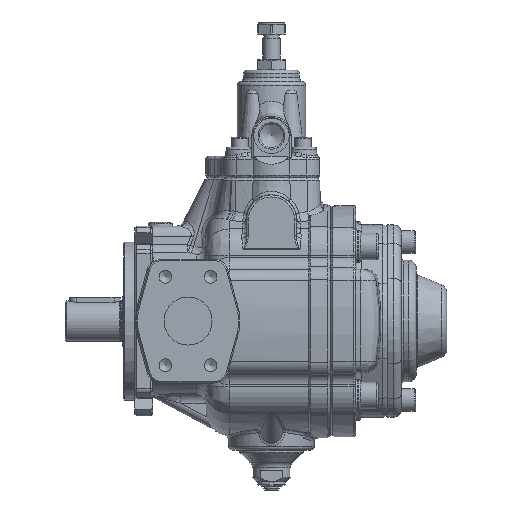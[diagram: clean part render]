
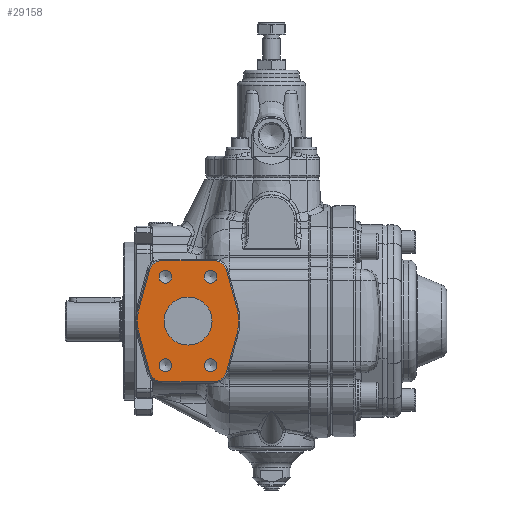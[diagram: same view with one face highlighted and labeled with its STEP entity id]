
A CAD part, left-side view. The second image highlights one B-rep face of the part: STEP entity #29158.
In plain terms, the highlighted planar face has unit normal (-1, 0, 0).
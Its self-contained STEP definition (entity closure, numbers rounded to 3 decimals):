
#1941=FACE_BOUND('',#6414,.T.);
#1942=FACE_BOUND('',#6415,.T.);
#1943=FACE_BOUND('',#6416,.T.);
#1944=FACE_BOUND('',#6417,.T.);
#1945=FACE_BOUND('',#6418,.T.);
#2497=CIRCLE('',#31368,11.);
#2499=CIRCLE('',#31372,40.);
#2502=CIRCLE('',#31377,11.);
#2504=CIRCLE('',#31381,11.);
#2506=CIRCLE('',#31385,40.);
#2508=CIRCLE('',#31389,11.);
#2513=CIRCLE('',#31404,19.);
#2514=CIRCLE('',#31405,5.053);
#2515=CIRCLE('',#31406,5.053);
#2516=CIRCLE('',#31407,5.053);
#2517=CIRCLE('',#31408,5.053);
#2518=CIRCLE('',#31409,5.053);
#2519=CIRCLE('',#31410,5.053);
#2520=CIRCLE('',#31411,5.053);
#2521=CIRCLE('',#31412,5.053);
#4637=FACE_OUTER_BOUND('',#6413,.T.);
#6413=EDGE_LOOP('',(#20047,#20048,#20049,#20050,#20051,#20052,#20053,#20054,
#20055,#20056,#20057,#20058));
#6414=EDGE_LOOP('',(#20059));
#6415=EDGE_LOOP('',(#20060,#20061));
#6416=EDGE_LOOP('',(#20062,#20063));
#6417=EDGE_LOOP('',(#20064,#20065));
#6418=EDGE_LOOP('',(#20066,#20067));
#8185=LINE('',#46070,#9667);
#8190=LINE('',#46084,#9672);
#8194=LINE('',#46098,#9676);
#8198=LINE('',#46110,#9680);
#8202=LINE('',#46122,#9684);
#8206=LINE('',#46134,#9688);
#9667=VECTOR('',#35819,10.);
#9672=VECTOR('',#35832,10.);
#9676=VECTOR('',#35846,10.);
#9680=VECTOR('',#35858,10.);
#9684=VECTOR('',#35870,10.);
#9688=VECTOR('',#35882,10.);
#11523=VERTEX_POINT('',#46067);
#11524=VERTEX_POINT('',#46069);
#11527=VERTEX_POINT('',#46076);
#11529=VERTEX_POINT('',#46082);
#11531=VERTEX_POINT('',#46088);
#11534=VERTEX_POINT('',#46096);
#11536=VERTEX_POINT('',#46102);
#11538=VERTEX_POINT('',#46108);
#11540=VERTEX_POINT('',#46114);
#11542=VERTEX_POINT('',#46120);
#11544=VERTEX_POINT('',#46126);
#11546=VERTEX_POINT('',#46132);
#11586=VERTEX_POINT('',#46340);
#11587=VERTEX_POINT('',#46342);
#11588=VERTEX_POINT('',#46343);
#11589=VERTEX_POINT('',#46346);
#11590=VERTEX_POINT('',#46347);
#11591=VERTEX_POINT('',#46350);
#11592=VERTEX_POINT('',#46351);
#11593=VERTEX_POINT('',#46354);
#11594=VERTEX_POINT('',#46355);
#14592=EDGE_CURVE('',#11523,#11524,#8185,.T.);
#14596=EDGE_CURVE('',#11527,#11523,#2497,.T.);
#14599=EDGE_CURVE('',#11529,#11527,#8190,.T.);
#14602=EDGE_CURVE('',#11531,#11529,#2499,.T.);
#14606=EDGE_CURVE('',#11534,#11531,#8194,.T.);
#14609=EDGE_CURVE('',#11536,#11534,#2502,.T.);
#14612=EDGE_CURVE('',#11538,#11536,#8198,.T.);
#14615=EDGE_CURVE('',#11540,#11538,#2504,.T.);
#14618=EDGE_CURVE('',#11542,#11540,#8202,.T.);
#14621=EDGE_CURVE('',#11544,#11542,#2506,.T.);
#14624=EDGE_CURVE('',#11546,#11544,#8206,.T.);
#14626=EDGE_CURVE('',#11524,#11546,#2508,.T.);
#14674=EDGE_CURVE('',#11586,#11586,#2513,.T.);
#14675=EDGE_CURVE('',#11587,#11588,#2514,.T.);
#14676=EDGE_CURVE('',#11588,#11587,#2515,.T.);
#14677=EDGE_CURVE('',#11589,#11590,#2516,.T.);
#14678=EDGE_CURVE('',#11590,#11589,#2517,.T.);
#14679=EDGE_CURVE('',#11591,#11592,#2518,.T.);
#14680=EDGE_CURVE('',#11592,#11591,#2519,.T.);
#14681=EDGE_CURVE('',#11593,#11594,#2520,.T.);
#14682=EDGE_CURVE('',#11594,#11593,#2521,.T.);
#20047=ORIENTED_EDGE('',*,*,#14592,.F.);
#20048=ORIENTED_EDGE('',*,*,#14596,.F.);
#20049=ORIENTED_EDGE('',*,*,#14599,.F.);
#20050=ORIENTED_EDGE('',*,*,#14602,.F.);
#20051=ORIENTED_EDGE('',*,*,#14606,.F.);
#20052=ORIENTED_EDGE('',*,*,#14609,.F.);
#20053=ORIENTED_EDGE('',*,*,#14612,.F.);
#20054=ORIENTED_EDGE('',*,*,#14615,.F.);
#20055=ORIENTED_EDGE('',*,*,#14618,.F.);
#20056=ORIENTED_EDGE('',*,*,#14621,.F.);
#20057=ORIENTED_EDGE('',*,*,#14624,.F.);
#20058=ORIENTED_EDGE('',*,*,#14626,.F.);
#20059=ORIENTED_EDGE('',*,*,#14674,.T.);
#20060=ORIENTED_EDGE('',*,*,#14675,.T.);
#20061=ORIENTED_EDGE('',*,*,#14676,.T.);
#20062=ORIENTED_EDGE('',*,*,#14677,.T.);
#20063=ORIENTED_EDGE('',*,*,#14678,.T.);
#20064=ORIENTED_EDGE('',*,*,#14679,.T.);
#20065=ORIENTED_EDGE('',*,*,#14680,.T.);
#20066=ORIENTED_EDGE('',*,*,#14681,.T.);
#20067=ORIENTED_EDGE('',*,*,#14682,.T.);
#26619=PLANE('',#31403);
#29158=ADVANCED_FACE('',(#4637,#1941,#1942,#1943,#1944,#1945),#26619,.F.);
#31368=AXIS2_PLACEMENT_3D('',#46078,#35825,#35826);
#31372=AXIS2_PLACEMENT_3D('',#46090,#35837,#35838);
#31377=AXIS2_PLACEMENT_3D('',#46104,#35851,#35852);
#31381=AXIS2_PLACEMENT_3D('',#46116,#35863,#35864);
#31385=AXIS2_PLACEMENT_3D('',#46128,#35875,#35876);
#31389=AXIS2_PLACEMENT_3D('',#46137,#35886,#35887);
#31403=AXIS2_PLACEMENT_3D('',#46339,#35929,#35930);
#31404=AXIS2_PLACEMENT_3D('',#46341,#35931,#35932);
#31405=AXIS2_PLACEMENT_3D('',#46344,#35933,#35934);
#31406=AXIS2_PLACEMENT_3D('',#46345,#35935,#35936);
#31407=AXIS2_PLACEMENT_3D('',#46348,#35937,#35938);
#31408=AXIS2_PLACEMENT_3D('',#46349,#35939,#35940);
#31409=AXIS2_PLACEMENT_3D('',#46352,#35941,#35942);
#31410=AXIS2_PLACEMENT_3D('',#46353,#35943,#35944);
#31411=AXIS2_PLACEMENT_3D('',#46356,#35945,#35946);
#31412=AXIS2_PLACEMENT_3D('',#46357,#35947,#35948);
#35819=DIRECTION('',(0.,1.,0.));
#35825=DIRECTION('center_axis',(1.,0.,0.));
#35826=DIRECTION('ref_axis',(0.,-0.964,-0.267));
#35832=DIRECTION('',(0.,0.267,-0.964));
#35837=DIRECTION('center_axis',(1.,0.,0.));
#35838=DIRECTION('ref_axis',(0.,-0.964,0.267));
#35846=DIRECTION('',(0.,-0.267,-0.964));
#35851=DIRECTION('center_axis',(1.,0.,0.));
#35852=DIRECTION('ref_axis',(0.,0.,1.));
#35858=DIRECTION('',(0.,-1.,0.));
#35863=DIRECTION('center_axis',(1.,0.,0.));
#35864=DIRECTION('ref_axis',(0.,0.964,0.267));
#35870=DIRECTION('',(0.,-0.267,0.964));
#35875=DIRECTION('center_axis',(1.,0.,0.));
#35876=DIRECTION('ref_axis',(0.,0.964,-0.267));
#35882=DIRECTION('',(0.,0.267,0.964));
#35886=DIRECTION('center_axis',(1.,0.,0.));
#35887=DIRECTION('ref_axis',(0.,0.,-1.));
#35929=DIRECTION('center_axis',(1.,0.,0.));
#35930=DIRECTION('ref_axis',(0.,0.,-1.));
#35931=DIRECTION('center_axis',(1.,0.,0.));
#35932=DIRECTION('ref_axis',(0.,-1.,0.));
#35933=DIRECTION('center_axis',(1.,0.,0.));
#35934=DIRECTION('ref_axis',(0.,0.,1.));
#35935=DIRECTION('center_axis',(1.,0.,0.));
#35936=DIRECTION('ref_axis',(0.,0.,1.));
#35937=DIRECTION('center_axis',(1.,0.,0.));
#35938=DIRECTION('ref_axis',(0.,0.,1.));
#35939=DIRECTION('center_axis',(1.,0.,0.));
#35940=DIRECTION('ref_axis',(0.,0.,1.));
#35941=DIRECTION('center_axis',(1.,0.,0.));
#35942=DIRECTION('ref_axis',(0.,0.,1.));
#35943=DIRECTION('center_axis',(1.,0.,0.));
#35944=DIRECTION('ref_axis',(0.,0.,1.));
#35945=DIRECTION('center_axis',(1.,0.,0.));
#35946=DIRECTION('ref_axis',(0.,0.,1.));
#35947=DIRECTION('center_axis',(1.,0.,0.));
#35948=DIRECTION('ref_axis',(0.,0.,1.));
#46067=CARTESIAN_POINT('',(-98.542,9.928,-57.476));
#46069=CARTESIAN_POINT('',(-98.542,49.628,-57.476));
#46070=CARTESIAN_POINT('',(-98.542,19.853,-57.476));
#46076=CARTESIAN_POINT('',(-98.542,-0.673,-49.41));
#46078=CARTESIAN_POINT('Origin',(-98.542,9.928,-46.476));
#46082=CARTESIAN_POINT('',(-98.542,-8.772,-20.145));
#46084=CARTESIAN_POINT('',(-98.542,-8.772,-20.145));
#46088=CARTESIAN_POINT('',(-98.542,-8.772,1.194));
#46090=CARTESIAN_POINT('Origin',(-98.542,29.778,-9.476));
#46096=CARTESIAN_POINT('',(-98.542,-0.673,30.458));
#46098=CARTESIAN_POINT('',(-98.542,-4.723,15.826));
#46102=CARTESIAN_POINT('',(-98.542,9.928,38.524));
#46104=CARTESIAN_POINT('Origin',(-98.542,9.928,27.524));
#46108=CARTESIAN_POINT('',(-98.542,49.628,38.524));
#46110=CARTESIAN_POINT('',(-98.542,39.703,38.524));
#46114=CARTESIAN_POINT('',(-98.542,60.23,30.458));
#46116=CARTESIAN_POINT('Origin',(-98.542,49.628,27.524));
#46120=CARTESIAN_POINT('',(-98.542,68.329,1.194));
#46122=CARTESIAN_POINT('',(-98.542,68.329,1.194));
#46126=CARTESIAN_POINT('',(-98.542,68.329,-20.145));
#46128=CARTESIAN_POINT('Origin',(-98.542,29.778,-9.476));
#46132=CARTESIAN_POINT('',(-98.542,60.23,-49.41));
#46134=CARTESIAN_POINT('',(-98.542,64.279,-34.777));
#46137=CARTESIAN_POINT('Origin',(-98.542,49.628,-46.476));
#46339=CARTESIAN_POINT('Origin',(-98.542,29.778,-9.476));
#46340=CARTESIAN_POINT('',(-98.542,48.778,-9.476));
#46341=CARTESIAN_POINT('Origin',(-98.542,29.778,-9.476));
#46342=CARTESIAN_POINT('',(-98.542,47.628,-39.373));
#46343=CARTESIAN_POINT('',(-98.542,47.628,-49.479));
#46344=CARTESIAN_POINT('Origin',(-98.542,47.628,-44.426));
#46345=CARTESIAN_POINT('Origin',(-98.542,47.628,-44.426));
#46346=CARTESIAN_POINT('',(-98.542,11.928,30.527));
#46347=CARTESIAN_POINT('',(-98.542,11.928,20.421));
#46348=CARTESIAN_POINT('Origin',(-98.542,11.928,25.474));
#46349=CARTESIAN_POINT('Origin',(-98.542,11.928,25.474));
#46350=CARTESIAN_POINT('',(-98.542,47.628,30.527));
#46351=CARTESIAN_POINT('',(-98.542,47.628,20.421));
#46352=CARTESIAN_POINT('Origin',(-98.542,47.628,25.474));
#46353=CARTESIAN_POINT('Origin',(-98.542,47.628,25.474));
#46354=CARTESIAN_POINT('',(-98.542,11.928,-39.373));
#46355=CARTESIAN_POINT('',(-98.542,11.928,-49.479));
#46356=CARTESIAN_POINT('Origin',(-98.542,11.928,-44.426));
#46357=CARTESIAN_POINT('Origin',(-98.542,11.928,-44.426));
